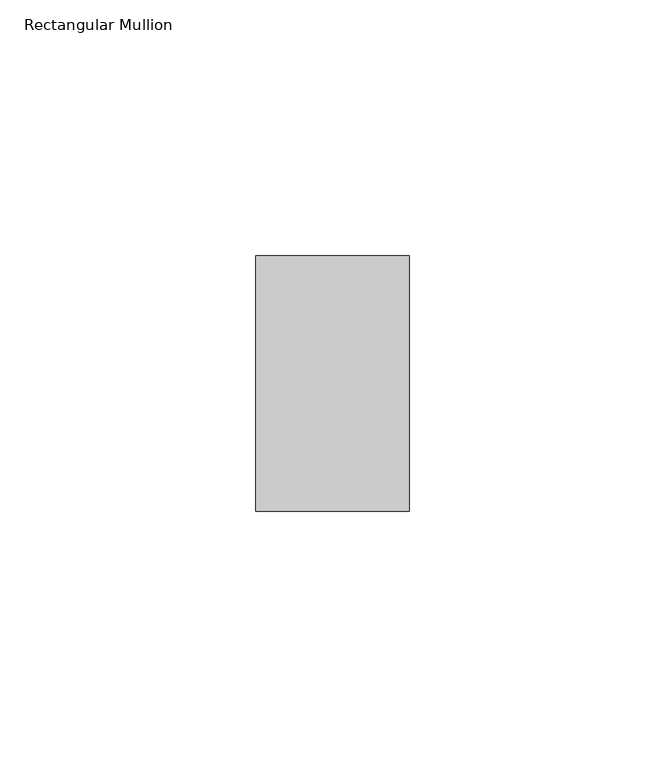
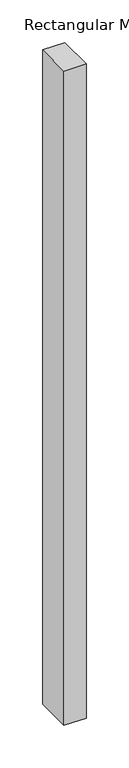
"""IFC4 building model written with IfcOpenShell, lengths in millimetres: member geometry, Rectangular Mullion : ARQ_TV_MULL_50x30mm."""

from ifc_helpers import new_model, si_unit, frame, origin, place, context, project, spatial, polyline, outline, extrude, source, transform, mapped, element, save


def rectangular_mullion_38782a9a(model_context):
    return source(origin(), model_context, "Body", "SweptSolid", [
        extrude(outline(polyline([(0.0, 25.0), (0.0, -25.0), (-30.0, -25.0), (-30.0, 25.0), (0.0, 25.0)])), frame((0.0, 0.0, -936.2499815), z_axis=(0.0, 0.0, 1.0), x_axis=(1.0, 0.0, 0.0)), (0.0, 0.0, 1.0), 936.2499815),
    ])


if __name__ == "__main__":
    model = new_model("IFC4")
    model_context = context("Model", 3, world=origin())
    ifc_project = project(units=[si_unit("LENGTHUNIT", "METRE", prefix="MILLI")], contexts=[model_context])
    site = spatial("IfcSite", under=ifc_project)
    building = spatial("IfcBuilding", under=site)
    placement = place(None, origin())
    rectangular_mullion_shape = rectangular_mullion_38782a9a(model_context)
    element("IfcMember", 1, ObjectType="Rectangular Mullion : ARQ_TV_MULL_50x30mm", at=placement, inside=building, context=model_context, shape_type="MappedRepresentation", body=[
        mapped(rectangular_mullion_shape, transform((0.0, 0.0, 0.0), x_axis=(1.0, 0.0, 0.0), y_axis=(0.0, 1.0, 0.0), z_axis=(0.0, 0.0, 1.0))),
    ])
    save(model, "model.ifc")
